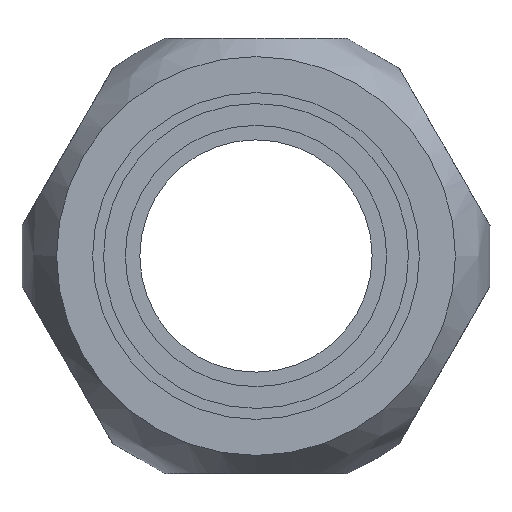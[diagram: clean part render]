
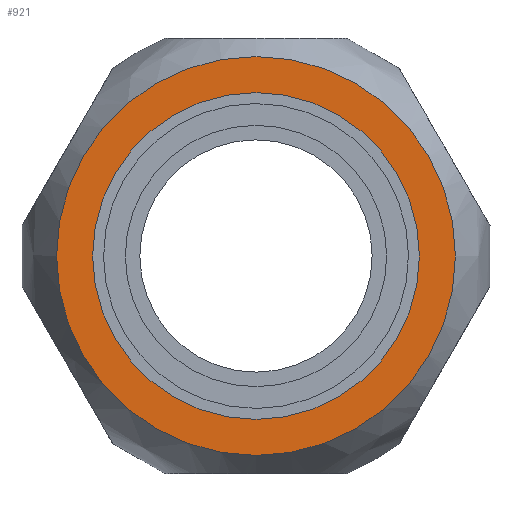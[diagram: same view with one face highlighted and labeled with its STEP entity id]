
A CAD part, left-side view. The second image highlights one B-rep face of the part: STEP entity #921.
In plain terms, the highlighted planar face has unit normal (-1, 0, 0).
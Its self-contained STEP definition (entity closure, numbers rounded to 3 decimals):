
#96=FACE_BOUND('',#209,.T.);
#114=PLANE('',#1088);
#148=FACE_OUTER_BOUND('',#208,.T.);
#208=EDGE_LOOP('',(#681,#682));
#209=EDGE_LOOP('',(#683,#684));
#334=CIRCLE('',#1080,13.735);
#335=CIRCLE('',#1081,13.735);
#338=CIRCLE('',#1086,11.25);
#339=CIRCLE('',#1087,11.25);
#415=VERTEX_POINT('',#1915);
#416=VERTEX_POINT('',#1919);
#419=VERTEX_POINT('',#1928);
#420=VERTEX_POINT('',#1930);
#518=EDGE_CURVE('',#415,#416,#334,.T.);
#519=EDGE_CURVE('',#416,#415,#335,.T.);
#523=EDGE_CURVE('',#420,#419,#338,.T.);
#524=EDGE_CURVE('',#419,#420,#339,.T.);
#681=ORIENTED_EDGE('',*,*,#519,.F.);
#682=ORIENTED_EDGE('',*,*,#518,.F.);
#683=ORIENTED_EDGE('',*,*,#523,.T.);
#684=ORIENTED_EDGE('',*,*,#524,.T.);
#921=ADVANCED_FACE('',(#148,#96),#114,.T.);
#1080=AXIS2_PLACEMENT_3D('',#1920,#1235,#1236);
#1081=AXIS2_PLACEMENT_3D('',#1921,#1237,#1238);
#1086=AXIS2_PLACEMENT_3D('',#1931,#1248,#1249);
#1087=AXIS2_PLACEMENT_3D('',#1932,#1250,#1251);
#1088=AXIS2_PLACEMENT_3D('',#1933,#1252,#1253);
#1235=DIRECTION('center_axis',(1.,0.,0.));
#1236=DIRECTION('ref_axis',(0.,1.,0.));
#1237=DIRECTION('center_axis',(1.,0.,0.));
#1238=DIRECTION('ref_axis',(0.,1.,0.));
#1248=DIRECTION('center_axis',(1.,0.,0.));
#1249=DIRECTION('ref_axis',(0.,1.,0.));
#1250=DIRECTION('center_axis',(1.,0.,0.));
#1251=DIRECTION('ref_axis',(0.,1.,0.));
#1252=DIRECTION('center_axis',(-1.,0.,0.));
#1253=DIRECTION('ref_axis',(0.,0.,1.));
#1915=CARTESIAN_POINT('',(0.,0.,13.735));
#1919=CARTESIAN_POINT('',(0.,13.735,0.));
#1920=CARTESIAN_POINT('Origin',(0.,0.,0.));
#1921=CARTESIAN_POINT('Origin',(0.,0.,0.));
#1928=CARTESIAN_POINT('',(0.,-11.25,0.));
#1930=CARTESIAN_POINT('',(0.,11.25,0.));
#1931=CARTESIAN_POINT('Origin',(0.,0.,0.));
#1932=CARTESIAN_POINT('Origin',(0.,0.,0.));
#1933=CARTESIAN_POINT('Origin',(0.,12.493,0.));
